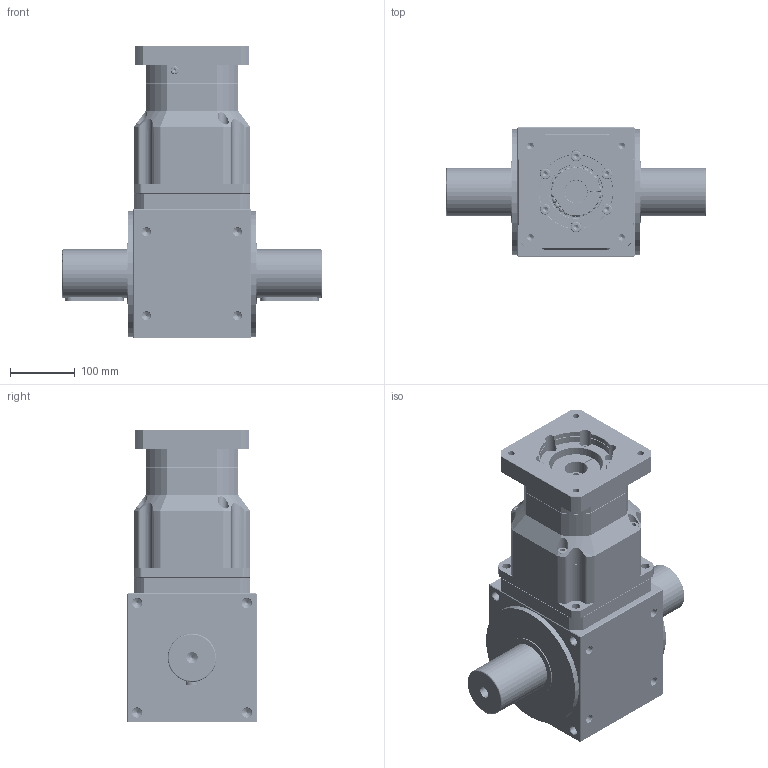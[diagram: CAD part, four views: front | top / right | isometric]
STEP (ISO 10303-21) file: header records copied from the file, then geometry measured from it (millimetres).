
FILE_DESCRIPTION (( 'STEP AP214' ), '1' );
FILE_NAME ('AAW200AS-L2-2P 35-114.3-200-M12.STEP', '2021-04-24T05:20:09', ( 'Microsoft' ), ( 'Microsoft China' ), 'SwSTEP 2.0', 'SolidWorks 2016', '' );
FILE_SCHEMA (( 'AUTOMOTIVE_DESIGN' ));
Length unit declared in the file: millimetre
Products named in the file (39): Deep groove ball bearings GB_Rolling bearings 6215 GB 276-94; 俴陎謫菜え13.6X27; 齿圈Z108; 俴陎粣13.513; 媼撰笢潔楊擘; AAW200AS-L2-2P--28-110-145-M8-SK; AAW200AS-L2-2P 35-114.3-200-M12; 萇儂楊擘D114.3M12; Hex socket set screws with flat point GB_GB_FASTENER_SCREWS_HSFP M12X16-N; 俴陎殤5B-30; 薊粣ん菜え35; Deep groove ball bearings GB_Rolling bearings 61821 GB 276-94; Hexagon socket head cap screws GB_GB_FASTENER_SCREWS_HSHCS M10X30-N; 二级齿圈Z108; Hexagon socket countersunk head screws GB_GB_FASTENER_SCREWS_HSCHS M6X16-N; Spring lock washers--Normal type GB_GB_FASTENER_WASHER_SW 10; Spring lock washers--Normal type GB_GB_FASTENER_WASHER_SW 8; Plain parallel keys_GB_CONNECTING_PIECE_KEYS_CSK C8X22; Hexagon socket head cap screws GB_GB_FASTENER_SCREWS_HSHCS M8X35-N; Circlips for hole--Type B GB_GB_CONNECTING_PIECE_RINGS_CHB 110; Hexagon socket head cap screws GB_GB_FASTENER_SCREWS_HSHCS M10X35-N; Circlips for holes--Type A GB_GB_CONNECTING_PIECE_RING_RRH 130; Plain parallel keys_GB_CONNECTING_PIECE_KEYS_CSK C4X18; 怮栠謫5B; Circlips for shaft--Type A large GB_GB_CONNECTING_PIECE_RING_RRA 55; 俴陎謫5B; 怮栠謫8; 俴陎謫菜え15.4X28; 薊粣ん35K12; 幗渀粣創15.259X21.259; Deep groove ball bearings GB_Rolling bearings 6011 GB 276-94; 俴陎粣15.259; 粣創揤啣105; 蚐猾75X130X12; Circlips for hole--Type B GB_GB_CONNECTING_PIECE_RINGS_CHB 80; Deep groove ball bearings GB_Rolling bearings 61826 GB 276-94; 俴陎謫8; 怀堤粣5B; 幗渀粣創13.513X18.513
Assembly tree (91 placements, depth 2):
  AAW200AS-L2-2P 35-114.3-200-M12
    齿圈Z108
    Deep groove ball bearings GB_Rolling bearings 6215 GB 276-94
    怀堤粣5B
    Deep groove ball bearings GB_Rolling bearings 61826 GB 276-94
    蚐猾75X130X12
    俴陎粣15.259  x3
    幗渀粣創15.259X21.259  x4
    俴陎謫菜え15.4X28  x6
    俴陎謫5B  x3
    怮栠謫5B
    Circlips for holes--Type A GB_GB_CONNECTING_PIECE_RING_RRH 130
    Circlips for hole--Type B GB_GB_CONNECTING_PIECE_RINGS_CHB 110
    Plain parallel keys_GB_CONNECTING_PIECE_KEYS_CSK C8X22
    Spring lock washers--Normal type GB_GB_FASTENER_WASHER_SW 10  x10
    二级齿圈Z108
    Deep groove ball bearings GB_Rolling bearings 61821 GB 276-94
    俴陎殤5B-30
    萇儂楊擘D114.3M12
    媼撰笢潔楊擘
    俴陎粣13.513  x3
    俴陎謫菜え13.6X27  x6
    幗渀粣創13.513X18.513  x3
    俴陎謫8  x3
    Circlips for hole--Type B GB_GB_CONNECTING_PIECE_RINGS_CHB 80
    粣創揤啣105
    Deep groove ball bearings GB_Rolling bearings 6011 GB 276-94
    薊粣ん35K12
    怮栠謫8
    Circlips for shaft--Type A large GB_GB_CONNECTING_PIECE_RING_RRA 55
    Plain parallel keys_GB_CONNECTING_PIECE_KEYS_CSK C4X18
    Hexagon socket head cap screws GB_GB_FASTENER_SCREWS_HSHCS M10X35-N  x10
    Hexagon socket head cap screws GB_GB_FASTENER_SCREWS_HSHCS M8X35-N  x4
    Spring lock washers--Normal type GB_GB_FASTENER_WASHER_SW 8  x4
    Hexagon socket countersunk head screws GB_GB_FASTENER_SCREWS_HSCHS M6X16-N  x6
    Hexagon socket head cap screws GB_GB_FASTENER_SCREWS_HSHCS M10X30-N
    薊粣ん菜え35
    Hex socket set screws with flat point GB_GB_FASTENER_SCREWS_HSFP M12X16-N  x2
    AAW200AS-L2-2P--28-110-145-M8-SK
Bounding box: 402 x 200 x 453 mm (x, y, z)
Volume: 14577970.7 mm3; surface area: 1417629.7 mm2
Topology: 93 solids, 94 shells, 3151 faces, 9473 edges, 5907 vertices
Faces by surface type: cylinder 978, bspline 874, plane 794, cone 441, torus 64
Entity records: 136826 total; most frequent: CARTESIAN_POINT 49238, ORIENTED_EDGE 14578, DIRECTION 10567, EDGE_CURVE 7289, VERTEX_POINT 4807, AXIS2_PLACEMENT_3D 4475, CIRCLE 2804, EDGE_LOOP 2656
